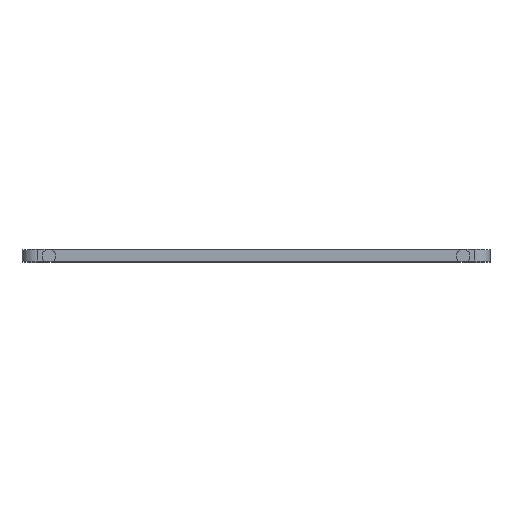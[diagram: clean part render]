
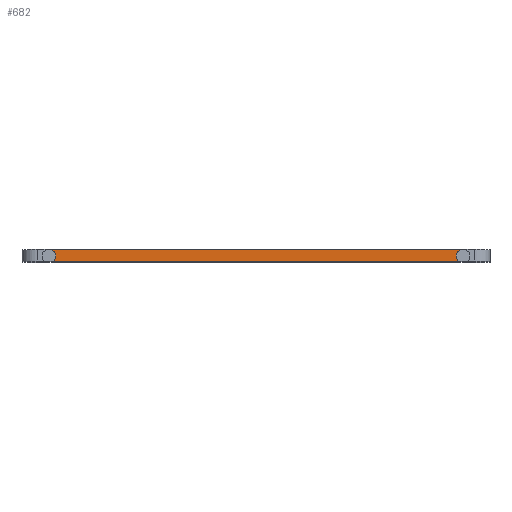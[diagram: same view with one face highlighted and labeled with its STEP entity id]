
A CAD part, top view. The second image highlights one B-rep face of the part: STEP entity #682.
In plain terms, the highlighted planar face has unit normal (0, 0, 1).
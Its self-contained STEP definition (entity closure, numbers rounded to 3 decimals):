
#44 = PLANE('',#45);
#45 = AXIS2_PLACEMENT_3D('',#46,#47,#48);
#46 = CARTESIAN_POINT('',(0.,70.2,137.));
#47 = DIRECTION('',(-0.,-1.,-0.));
#48 = DIRECTION('',(0.,0.,-1.));
#100 = PLANE('',#101);
#101 = AXIS2_PLACEMENT_3D('',#102,#103,#104);
#102 = CARTESIAN_POINT('',(0.,67.2,137.));
#103 = DIRECTION('',(-0.,-1.,-0.));
#104 = DIRECTION('',(0.,0.,-1.));
#555 = CYLINDRICAL_SURFACE('',#556,1.75);
#556 = AXIS2_PLACEMENT_3D('',#557,#558,#559);
#557 = CARTESIAN_POINT('',(-54.,68.5,243.));
#558 = DIRECTION('',(-0.,-0.,-1.));
#559 = DIRECTION('',(1.,0.,0.));
#611 = VERTEX_POINT('',#612);
#612 = CARTESIAN_POINT('',(-52.828,67.2,249.));
#631 = EDGE_CURVE('',#611,#632,#634,.T.);
#632 = VERTEX_POINT('',#633);
#633 = CARTESIAN_POINT('',(-53.585,70.2,249.));
#634 = SURFACE_CURVE('',#635,(#640,#647),.PCURVE_S1.);
#635 = CIRCLE('',#636,1.75);
#636 = AXIS2_PLACEMENT_3D('',#637,#638,#639);
#637 = CARTESIAN_POINT('',(-54.,68.5,249.));
#638 = DIRECTION('',(-0.,0.,1.));
#639 = DIRECTION('',(0.669,-0.743,0.));
#640 = PCURVE('',#555,#641);
#641 = DEFINITIONAL_REPRESENTATION('',(#642),#646);
#642 = LINE('',#643,#644);
#643 = CARTESIAN_POINT('',(-5.446,-6.));
#644 = VECTOR('',#645,1.);
#645 = DIRECTION('',(-1.,-0.));
#646 = ( GEOMETRIC_REPRESENTATION_CONTEXT(2) 
PARAMETRIC_REPRESENTATION_CONTEXT() REPRESENTATION_CONTEXT('2D SPACE',''
  ) );
#647 = PCURVE('',#648,#653);
#648 = PLANE('',#649);
#649 = AXIS2_PLACEMENT_3D('',#650,#651,#652);
#650 = CARTESIAN_POINT('',(61.,70.2,249.));
#651 = DIRECTION('',(-0.,-0.,-1.));
#652 = DIRECTION('',(-1.,0.,0.));
#653 = DEFINITIONAL_REPRESENTATION('',(#654),#662);
#654 = ( BOUNDED_CURVE() B_SPLINE_CURVE(2,(#655,#656,#657,#658,#659,#660
,#661),.UNSPECIFIED.,.T.,.F.) B_SPLINE_CURVE_WITH_KNOTS((1,2,2,2,2,1),(
    -2.094,0.,2.094,4.189,6.283,
8.378),.UNSPECIFIED.) CURVE() GEOMETRIC_REPRESENTATION_ITEM() 
RATIONAL_B_SPLINE_CURVE((1.,0.5,1.,0.5,1.,0.5,1.)) REPRESENTATION_ITEM(
  '') );
#655 = CARTESIAN_POINT('',(113.828,-3.));
#656 = CARTESIAN_POINT('',(111.577,-0.971));
#657 = CARTESIAN_POINT('',(114.46,-0.035));
#658 = CARTESIAN_POINT('',(117.343,0.9));
#659 = CARTESIAN_POINT('',(116.712,-2.065));
#660 = CARTESIAN_POINT('',(116.08,-5.029));
#661 = CARTESIAN_POINT('',(113.828,-3.));
#662 = ( GEOMETRIC_REPRESENTATION_CONTEXT(2) 
PARAMETRIC_REPRESENTATION_CONTEXT() REPRESENTATION_CONTEXT('2D SPACE',''
  ) );
#682 = ADVANCED_FACE('',(#683),#648,.F.);
#683 = FACE_BOUND('',#684,.F.);
#684 = EDGE_LOOP('',(#685,#708,#737,#758));
#685 = ORIENTED_EDGE('',*,*,#686,.F.);
#686 = EDGE_CURVE('',#687,#632,#689,.T.);
#687 = VERTEX_POINT('',#688);
#688 = CARTESIAN_POINT('',(53.585,70.2,249.));
#689 = SURFACE_CURVE('',#690,(#694,#701),.PCURVE_S1.);
#690 = LINE('',#691,#692);
#691 = CARTESIAN_POINT('',(61.,70.2,249.));
#692 = VECTOR('',#693,1.);
#693 = DIRECTION('',(-1.,0.,0.));
#694 = PCURVE('',#648,#695);
#695 = DEFINITIONAL_REPRESENTATION('',(#696),#700);
#696 = LINE('',#697,#698);
#697 = CARTESIAN_POINT('',(0.,0.));
#698 = VECTOR('',#699,1.);
#699 = DIRECTION('',(1.,0.));
#700 = ( GEOMETRIC_REPRESENTATION_CONTEXT(2) 
PARAMETRIC_REPRESENTATION_CONTEXT() REPRESENTATION_CONTEXT('2D SPACE',''
  ) );
#701 = PCURVE('',#44,#702);
#702 = DEFINITIONAL_REPRESENTATION('',(#703),#707);
#703 = LINE('',#704,#705);
#704 = CARTESIAN_POINT('',(-112.,61.));
#705 = VECTOR('',#706,1.);
#706 = DIRECTION('',(0.,-1.));
#707 = ( GEOMETRIC_REPRESENTATION_CONTEXT(2) 
PARAMETRIC_REPRESENTATION_CONTEXT() REPRESENTATION_CONTEXT('2D SPACE',''
  ) );
#708 = ORIENTED_EDGE('',*,*,#709,.F.);
#709 = EDGE_CURVE('',#710,#687,#712,.T.);
#710 = VERTEX_POINT('',#711);
#711 = CARTESIAN_POINT('',(52.828,67.2,249.));
#712 = SURFACE_CURVE('',#713,(#718,#725),.PCURVE_S1.);
#713 = CIRCLE('',#714,1.75);
#714 = AXIS2_PLACEMENT_3D('',#715,#716,#717);
#715 = CARTESIAN_POINT('',(54.,68.5,249.));
#716 = DIRECTION('',(0.,0.,-1.));
#717 = DIRECTION('',(1.,0.,0.));
#718 = PCURVE('',#648,#719);
#719 = DEFINITIONAL_REPRESENTATION('',(#720),#724);
#720 = CIRCLE('',#721,1.75);
#721 = AXIS2_PLACEMENT_2D('',#722,#723);
#722 = CARTESIAN_POINT('',(7.,-1.7));
#723 = DIRECTION('',(-1.,0.));
#724 = ( GEOMETRIC_REPRESENTATION_CONTEXT(2) 
PARAMETRIC_REPRESENTATION_CONTEXT() REPRESENTATION_CONTEXT('2D SPACE',''
  ) );
#725 = PCURVE('',#726,#731);
#726 = CYLINDRICAL_SURFACE('',#727,1.75);
#727 = AXIS2_PLACEMENT_3D('',#728,#729,#730);
#728 = CARTESIAN_POINT('',(54.,68.5,243.));
#729 = DIRECTION('',(-0.,-0.,-1.));
#730 = DIRECTION('',(1.,0.,0.));
#731 = DEFINITIONAL_REPRESENTATION('',(#732),#736);
#732 = LINE('',#733,#734);
#733 = CARTESIAN_POINT('',(-6.283,-6.));
#734 = VECTOR('',#735,1.);
#735 = DIRECTION('',(1.,-0.));
#736 = ( GEOMETRIC_REPRESENTATION_CONTEXT(2) 
PARAMETRIC_REPRESENTATION_CONTEXT() REPRESENTATION_CONTEXT('2D SPACE',''
  ) );
#737 = ORIENTED_EDGE('',*,*,#738,.T.);
#738 = EDGE_CURVE('',#710,#611,#739,.T.);
#739 = SURFACE_CURVE('',#740,(#744,#751),.PCURVE_S1.);
#740 = LINE('',#741,#742);
#741 = CARTESIAN_POINT('',(61.,67.2,249.));
#742 = VECTOR('',#743,1.);
#743 = DIRECTION('',(-1.,0.,0.));
#744 = PCURVE('',#648,#745);
#745 = DEFINITIONAL_REPRESENTATION('',(#746),#750);
#746 = LINE('',#747,#748);
#747 = CARTESIAN_POINT('',(0.,-3.));
#748 = VECTOR('',#749,1.);
#749 = DIRECTION('',(1.,0.));
#750 = ( GEOMETRIC_REPRESENTATION_CONTEXT(2) 
PARAMETRIC_REPRESENTATION_CONTEXT() REPRESENTATION_CONTEXT('2D SPACE',''
  ) );
#751 = PCURVE('',#100,#752);
#752 = DEFINITIONAL_REPRESENTATION('',(#753),#757);
#753 = LINE('',#754,#755);
#754 = CARTESIAN_POINT('',(-112.,61.));
#755 = VECTOR('',#756,1.);
#756 = DIRECTION('',(0.,-1.));
#757 = ( GEOMETRIC_REPRESENTATION_CONTEXT(2) 
PARAMETRIC_REPRESENTATION_CONTEXT() REPRESENTATION_CONTEXT('2D SPACE',''
  ) );
#758 = ORIENTED_EDGE('',*,*,#631,.T.);
